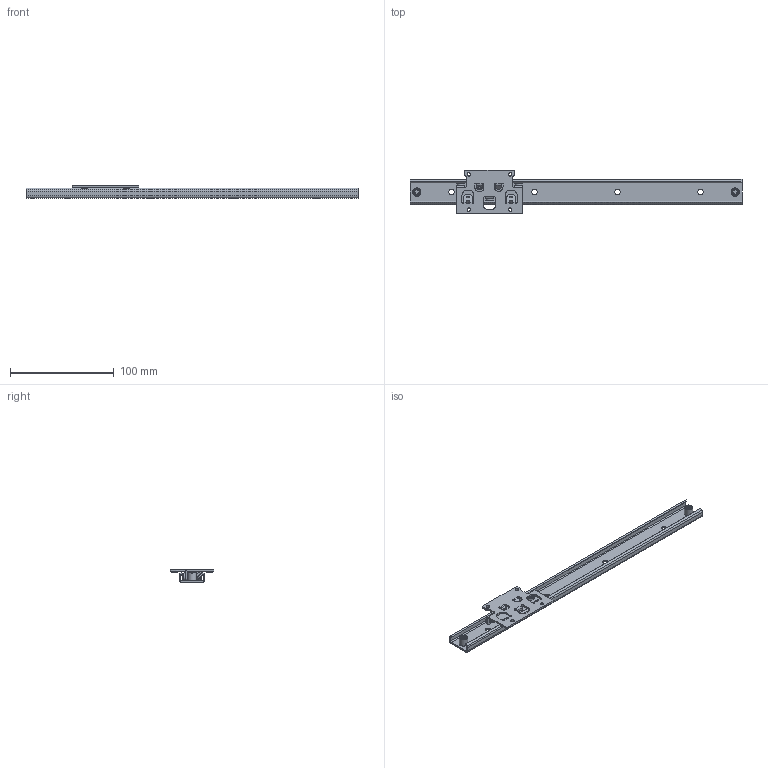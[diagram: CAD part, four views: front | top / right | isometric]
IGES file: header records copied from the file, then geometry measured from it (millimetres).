
Global section: file name:  ; native system: Kubotek KeyCreator; preprocessor: KCM Version 1.1.28; author: KeyCreator•p{ž; organization: Self; date: 20160805.054645; units: millimetre
Bounding box: 320 x 42 x 12 mm (x, y, z)
Surface area: 34168.2 mm2 (no closed solid volume)
Topology: 0 solids, 0 shells, 422 faces, 1944 edges, 1806 vertices
Faces by surface type: revolution 240, plane 182
